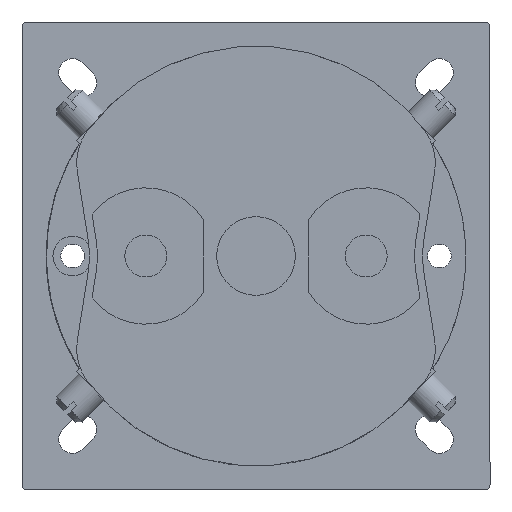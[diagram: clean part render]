
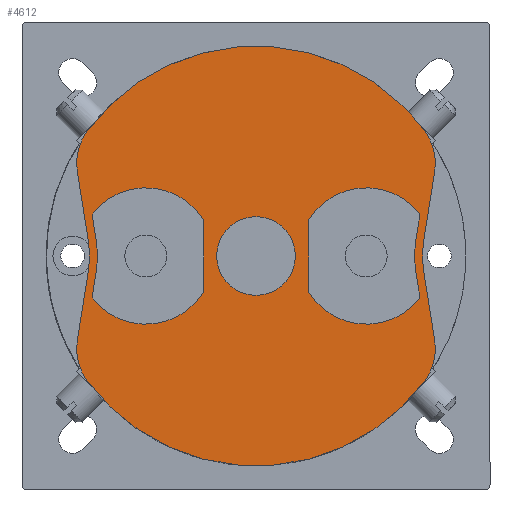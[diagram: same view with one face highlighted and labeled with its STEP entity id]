
A CAD part, front view. The second image highlights one B-rep face of the part: STEP entity #4612.
In plain terms, the highlighted planar face has unit normal (0, -1, 0).
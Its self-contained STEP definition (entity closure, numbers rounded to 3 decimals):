
#1492=FACE_BOUND('',#10340,.T.);
#1493=FACE_BOUND('',#10341,.T.);
#1494=FACE_BOUND('',#10342,.T.);
#1495=FACE_BOUND('',#10343,.T.);
#2804=CIRCLE('',#38981,7.5);
#2805=CIRCLE('',#38983,13.);
#2806=CIRCLE('',#38986,21.5);
#2807=CIRCLE('',#38989,13.);
#2808=CIRCLE('',#38992,21.5);
#2809=CIRCLE('',#38995,13.);
#2810=CIRCLE('',#38998,13.);
#2811=CIRCLE('',#39001,10.);
#2812=CIRCLE('',#39002,20.);
#2813=CIRCLE('',#39003,10.);
#2814=CIRCLE('',#39004,40.);
#2815=CIRCLE('',#39005,10.);
#2816=CIRCLE('',#39006,20.);
#2817=CIRCLE('',#39007,10.);
#2818=CIRCLE('',#39008,40.);
#4612=ADVANCED_FACE('',(#1492,#1493,#1494,#1495),#6263,.T.);
#6263=PLANE('',#39009);
#10340=EDGE_LOOP('',(#18654,#18655,#18656,#18657,#18658,#18659));
#10341=EDGE_LOOP('',(#18660,#18661,#18662,#18663,#18664,#18665));
#10342=EDGE_LOOP('',(#18666,#18667,#18668,#18669,#18670,#18671,#18672,#18673,
#18674,#18675,#18676,#18677));
#10343=EDGE_LOOP('',(#18678));
#18654=ORIENTED_EDGE('',*,*,#28284,.T.);
#18655=ORIENTED_EDGE('',*,*,#28282,.T.);
#18656=ORIENTED_EDGE('',*,*,#28280,.T.);
#18657=ORIENTED_EDGE('',*,*,#28278,.T.);
#18658=ORIENTED_EDGE('',*,*,#28276,.T.);
#18659=ORIENTED_EDGE('',*,*,#28273,.T.);
#18660=ORIENTED_EDGE('',*,*,#28272,.F.);
#18661=ORIENTED_EDGE('',*,*,#28270,.F.);
#18662=ORIENTED_EDGE('',*,*,#28268,.F.);
#18663=ORIENTED_EDGE('',*,*,#28266,.F.);
#18664=ORIENTED_EDGE('',*,*,#28264,.F.);
#18665=ORIENTED_EDGE('',*,*,#28261,.F.);
#18666=ORIENTED_EDGE('',*,*,#28285,.T.);
#18667=ORIENTED_EDGE('',*,*,#28286,.T.);
#18668=ORIENTED_EDGE('',*,*,#28287,.T.);
#18669=ORIENTED_EDGE('',*,*,#28288,.T.);
#18670=ORIENTED_EDGE('',*,*,#28289,.T.);
#18671=ORIENTED_EDGE('',*,*,#28290,.T.);
#18672=ORIENTED_EDGE('',*,*,#28291,.T.);
#18673=ORIENTED_EDGE('',*,*,#28292,.T.);
#18674=ORIENTED_EDGE('',*,*,#28293,.T.);
#18675=ORIENTED_EDGE('',*,*,#28294,.T.);
#18676=ORIENTED_EDGE('',*,*,#28295,.T.);
#18677=ORIENTED_EDGE('',*,*,#28296,.T.);
#18678=ORIENTED_EDGE('',*,*,#28260,.F.);
#23600=VERTEX_POINT('',#61139);
#23601=VERTEX_POINT('',#61142);
#23602=VERTEX_POINT('',#61143);
#23603=VERTEX_POINT('',#61148);
#23604=VERTEX_POINT('',#61152);
#23605=VERTEX_POINT('',#61156);
#23606=VERTEX_POINT('',#61160);
#23607=VERTEX_POINT('',#61166);
#23608=VERTEX_POINT('',#61167);
#23609=VERTEX_POINT('',#61172);
#23610=VERTEX_POINT('',#61176);
#23611=VERTEX_POINT('',#61180);
#23612=VERTEX_POINT('',#61184);
#23613=VERTEX_POINT('',#61190);
#23614=VERTEX_POINT('',#61191);
#23615=VERTEX_POINT('',#61193);
#23616=VERTEX_POINT('',#61195);
#23617=VERTEX_POINT('',#61197);
#23618=VERTEX_POINT('',#61199);
#23619=VERTEX_POINT('',#61201);
#23620=VERTEX_POINT('',#61203);
#23621=VERTEX_POINT('',#61205);
#23622=VERTEX_POINT('',#61207);
#23623=VERTEX_POINT('',#61209);
#23624=VERTEX_POINT('',#61211);
#28260=EDGE_CURVE('',#23600,#23600,#2804,.T.);
#28261=EDGE_CURVE('',#23601,#23602,#2805,.T.);
#28264=EDGE_CURVE('',#23602,#23603,#32148,.T.);
#28266=EDGE_CURVE('',#23603,#23604,#2806,.T.);
#28268=EDGE_CURVE('',#23604,#23605,#32151,.T.);
#28270=EDGE_CURVE('',#23605,#23606,#2807,.T.);
#28272=EDGE_CURVE('',#23606,#23601,#32154,.T.);
#28273=EDGE_CURVE('',#23607,#23608,#2808,.T.);
#28276=EDGE_CURVE('',#23609,#23607,#32157,.T.);
#28278=EDGE_CURVE('',#23610,#23609,#2809,.T.);
#28280=EDGE_CURVE('',#23611,#23610,#32160,.T.);
#28282=EDGE_CURVE('',#23612,#23611,#2810,.T.);
#28284=EDGE_CURVE('',#23608,#23612,#32163,.T.);
#28285=EDGE_CURVE('',#23613,#23614,#2811,.T.);
#28286=EDGE_CURVE('',#23614,#23615,#32164,.T.);
#28287=EDGE_CURVE('',#23615,#23616,#2812,.T.);
#28288=EDGE_CURVE('',#23616,#23617,#32165,.T.);
#28289=EDGE_CURVE('',#23617,#23618,#2813,.T.);
#28290=EDGE_CURVE('',#23618,#23619,#2814,.T.);
#28291=EDGE_CURVE('',#23619,#23620,#2815,.T.);
#28292=EDGE_CURVE('',#23620,#23621,#32166,.T.);
#28293=EDGE_CURVE('',#23621,#23622,#2816,.T.);
#28294=EDGE_CURVE('',#23622,#23623,#32167,.T.);
#28295=EDGE_CURVE('',#23623,#23624,#2817,.T.);
#28296=EDGE_CURVE('',#23624,#23613,#2818,.T.);
#32148=LINE('',#61147,#35769);
#32151=LINE('',#61155,#35772);
#32154=LINE('',#61163,#35775);
#32157=LINE('',#61171,#35778);
#32160=LINE('',#61179,#35781);
#32163=LINE('',#61187,#35784);
#32164=LINE('',#61192,#35785);
#32165=LINE('',#61196,#35786);
#32166=LINE('',#61204,#35787);
#32167=LINE('',#61208,#35788);
#35769=VECTOR('',#47508,1.);
#35772=VECTOR('',#47517,1.);
#35775=VECTOR('',#47526,1.);
#35778=VECTOR('',#47535,1.);
#35781=VECTOR('',#47544,1.);
#35784=VECTOR('',#47553,1.);
#35785=VECTOR('',#47558,1.);
#35786=VECTOR('',#47561,1.);
#35787=VECTOR('',#47568,1.);
#35788=VECTOR('',#47571,1.);
#38981=AXIS2_PLACEMENT_3D('',#61138,#47498,#47499);
#38983=AXIS2_PLACEMENT_3D('',#61141,#47502,#47503);
#38986=AXIS2_PLACEMENT_3D('',#61151,#47512,#47513);
#38989=AXIS2_PLACEMENT_3D('',#61159,#47521,#47522);
#38992=AXIS2_PLACEMENT_3D('',#61165,#47529,#47530);
#38995=AXIS2_PLACEMENT_3D('',#61175,#47539,#47540);
#38998=AXIS2_PLACEMENT_3D('',#61183,#47548,#47549);
#39001=AXIS2_PLACEMENT_3D('',#61189,#47556,#47557);
#39002=AXIS2_PLACEMENT_3D('',#61194,#47559,#47560);
#39003=AXIS2_PLACEMENT_3D('',#61198,#47562,#47563);
#39004=AXIS2_PLACEMENT_3D('',#61200,#47564,#47565);
#39005=AXIS2_PLACEMENT_3D('',#61202,#47566,#47567);
#39006=AXIS2_PLACEMENT_3D('',#61206,#47569,#47570);
#39007=AXIS2_PLACEMENT_3D('',#61210,#47572,#47573);
#39008=AXIS2_PLACEMENT_3D('',#61212,#47574,#47575);
#39009=AXIS2_PLACEMENT_3D('',#61213,#47576,#47577);
#47498=DIRECTION('',(0.,-1.,0.));
#47499=DIRECTION('',(0.,0.,-1.));
#47502=DIRECTION('',(0.,-1.,0.));
#47503=DIRECTION('',(1.,0.,0.));
#47508=DIRECTION('',(-0.156,0.,0.988));
#47512=DIRECTION('',(0.,1.,0.));
#47513=DIRECTION('',(1.,0.,0.));
#47517=DIRECTION('',(0.156,0.,0.988));
#47521=DIRECTION('',(0.,-1.,0.));
#47522=DIRECTION('',(1.,0.,0.));
#47526=DIRECTION('',(0.,0.,-1.));
#47529=DIRECTION('',(0.,-1.,0.));
#47530=DIRECTION('',(1.,0.,0.));
#47535=DIRECTION('',(0.156,0.,0.988));
#47539=DIRECTION('',(0.,1.,0.));
#47540=DIRECTION('',(1.,0.,0.));
#47544=DIRECTION('',(0.,0.,-1.));
#47548=DIRECTION('',(0.,1.,0.));
#47549=DIRECTION('',(1.,0.,0.));
#47553=DIRECTION('',(-0.156,0.,0.988));
#47556=DIRECTION('',(0.,-1.,0.));
#47557=DIRECTION('',(0.,0.,-1.));
#47558=DIRECTION('',(0.156,0.,-0.988));
#47559=DIRECTION('',(0.,1.,0.));
#47560=DIRECTION('',(0.,0.,-1.));
#47561=DIRECTION('',(-0.156,0.,-0.988));
#47562=DIRECTION('',(0.,-1.,0.));
#47563=DIRECTION('',(0.,0.,-1.));
#47564=DIRECTION('',(0.,-1.,0.));
#47565=DIRECTION('',(0.,0.,-1.));
#47566=DIRECTION('',(0.,-1.,0.));
#47567=DIRECTION('',(0.,0.,-1.));
#47568=DIRECTION('',(-0.156,0.,0.988));
#47569=DIRECTION('',(0.,1.,0.));
#47570=DIRECTION('',(0.,0.,-1.));
#47571=DIRECTION('',(0.156,0.,0.988));
#47572=DIRECTION('',(0.,-1.,0.));
#47573=DIRECTION('',(0.,0.,-1.));
#47574=DIRECTION('',(0.,-1.,0.));
#47575=DIRECTION('',(0.,0.,-1.));
#47576=DIRECTION('',(0.,-1.,0.));
#47577=DIRECTION('',(0.,0.,-1.));
#61138=CARTESIAN_POINT('',(0.,-242.5,0.));
#61139=CARTESIAN_POINT('',(0.,-242.5,-7.5));
#61141=CARTESIAN_POINT('',(21.031,-242.5,0.));
#61142=CARTESIAN_POINT('',(10.031,-242.5,-6.928));
#61143=CARTESIAN_POINT('',(31.253,-242.5,-8.032));
#61147=CARTESIAN_POINT('',(31.253,-242.5,-8.032));
#61148=CARTESIAN_POINT('',(30.514,-242.5,-3.363));
#61151=CARTESIAN_POINT('',(51.749,-242.5,0.));
#61152=CARTESIAN_POINT('',(30.514,-242.5,3.363));
#61155=CARTESIAN_POINT('',(30.514,-242.5,3.363));
#61156=CARTESIAN_POINT('',(31.253,-242.5,8.032));
#61159=CARTESIAN_POINT('',(21.031,-242.5,0.));
#61160=CARTESIAN_POINT('',(10.031,-242.5,6.928));
#61163=CARTESIAN_POINT('',(10.031,-242.5,6.928));
#61165=CARTESIAN_POINT('',(-51.749,-242.5,0.));
#61166=CARTESIAN_POINT('',(-30.514,-242.5,-3.363));
#61167=CARTESIAN_POINT('',(-30.514,-242.5,3.363));
#61171=CARTESIAN_POINT('',(-31.248,-242.5,-7.998));
#61172=CARTESIAN_POINT('',(-31.248,-242.5,-7.998));
#61175=CARTESIAN_POINT('',(-21.,-242.5,0.));
#61176=CARTESIAN_POINT('',(-10.,-242.5,-6.928));
#61179=CARTESIAN_POINT('',(-10.,-242.5,6.928));
#61180=CARTESIAN_POINT('',(-10.,-242.5,6.928));
#61183=CARTESIAN_POINT('',(-21.,-242.5,0.));
#61184=CARTESIAN_POINT('',(-31.248,-242.5,7.998));
#61187=CARTESIAN_POINT('',(-30.514,-242.5,3.363));
#61189=CARTESIAN_POINT('',(-24.186,-242.5,17.749));
#61190=CARTESIAN_POINT('',(-32.249,-242.5,23.665));
#61191=CARTESIAN_POINT('',(-34.063,-242.5,16.184));
#61192=CARTESIAN_POINT('',(-34.063,-242.5,16.184));
#61193=CARTESIAN_POINT('',(-31.996,-242.5,3.129));
#61194=CARTESIAN_POINT('',(-51.749,-242.5,0.));
#61195=CARTESIAN_POINT('',(-31.996,-242.5,-3.129));
#61196=CARTESIAN_POINT('',(-31.996,-242.5,-3.129));
#61197=CARTESIAN_POINT('',(-34.063,-242.5,-16.184));
#61198=CARTESIAN_POINT('',(-24.186,-242.5,-17.749));
#61199=CARTESIAN_POINT('',(-32.249,-242.5,-23.665));
#61200=CARTESIAN_POINT('',(0.,-242.5,0.));
#61201=CARTESIAN_POINT('',(32.249,-242.5,-23.665));
#61202=CARTESIAN_POINT('',(24.186,-242.5,-17.749));
#61203=CARTESIAN_POINT('',(34.063,-242.5,-16.184));
#61204=CARTESIAN_POINT('',(34.063,-242.5,-16.184));
#61205=CARTESIAN_POINT('',(31.996,-242.5,-3.129));
#61206=CARTESIAN_POINT('',(51.749,-242.5,0.));
#61207=CARTESIAN_POINT('',(31.996,-242.5,3.129));
#61208=CARTESIAN_POINT('',(31.996,-242.5,3.129));
#61209=CARTESIAN_POINT('',(34.063,-242.5,16.184));
#61210=CARTESIAN_POINT('',(24.186,-242.5,17.749));
#61211=CARTESIAN_POINT('',(32.249,-242.5,23.665));
#61212=CARTESIAN_POINT('',(0.,-242.5,0.));
#61213=CARTESIAN_POINT('',(-24.186,-242.5,17.749));
